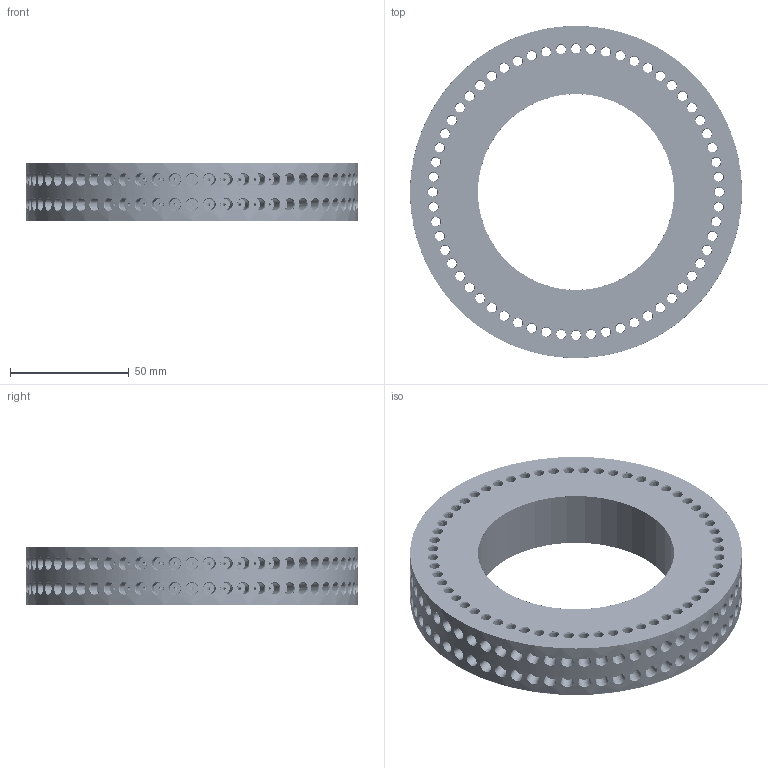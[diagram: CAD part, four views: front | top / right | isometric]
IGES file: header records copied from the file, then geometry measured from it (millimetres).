
Start section: SolidWorks IGES file using analytic representation for surfaces
Global section: file name: X:\ESP\G3-ESP\Solidworks files\Turbine\Arrayvalve\ValveRingConc.IGS; native system: SolidWorks 2013; preprocessor: SolidWorks 2013; author: pargett; date: 130802.135551; units: inch
Bounding box: 139.7 x 139.7 x 24 mm (x, y, z)
Surface area: 63255.1 mm2 (no closed solid volume)
Topology: 0 solids, 0 shells, 1224 faces, 24714 edges, 24714 vertices
Faces by surface type: revolution 1090, bspline 134
